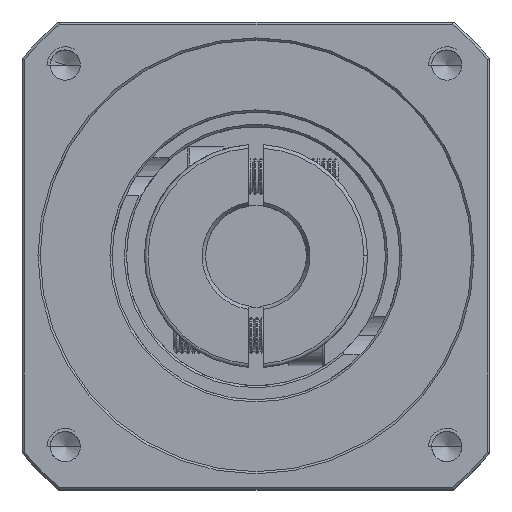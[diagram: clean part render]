
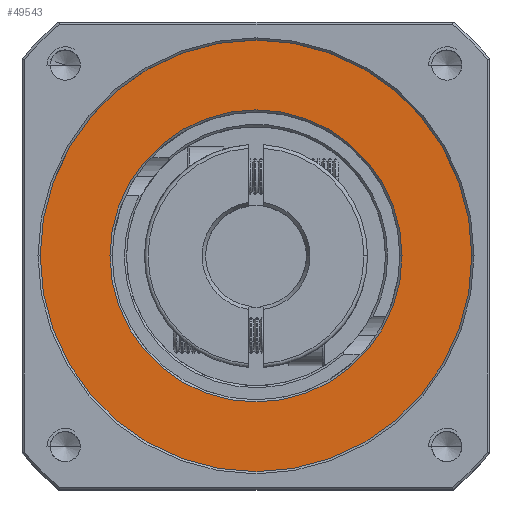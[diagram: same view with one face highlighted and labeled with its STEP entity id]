
A CAD part, top view. The second image highlights one B-rep face of the part: STEP entity #49543.
In plain terms, the highlighted planar face has unit normal (0, 0, 1).
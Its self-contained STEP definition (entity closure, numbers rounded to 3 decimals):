
#1238 = FACE_BOUND ( 'NONE', #85916, .T. ) ;
#3043 = AXIS2_PLACEMENT_3D ( 'NONE', #88804, #36376, #97473 ) ;
#3115 = DIRECTION ( 'NONE',  ( 0., 0., -1. ) ) ;
#9025 = CARTESIAN_POINT ( 'NONE',  ( -94.661, 33.999, 21.993 ) ) ;
#10719 = DIRECTION ( 'NONE',  ( 0., 0., 1. ) ) ;
#10800 = VERTEX_POINT ( 'NONE', #111671 ) ;
#12908 = VERTEX_POINT ( 'NONE', #112101 ) ;
#14169 = CIRCLE ( 'NONE', #73472, 20.3 ) ;
#15122 = EDGE_CURVE ( 'NONE', #12908, #10800, #14169, .T. ) ;
#17546 = CIRCLE ( 'NONE', #43964, 30. ) ;
#19249 = VERTEX_POINT ( 'NONE', #9025 ) ;
#19813 = EDGE_CURVE ( 'NONE', #19249, #24458, #17546, .T. ) ;
#24458 = VERTEX_POINT ( 'NONE', #70479 ) ;
#27011 = CARTESIAN_POINT ( 'NONE',  ( -64.661, 33.999, 21.993 ) ) ;
#27162 = FACE_OUTER_BOUND ( 'NONE', #91543, .T. ) ;
#31643 = DIRECTION ( 'NONE',  ( 0., 0., 1. ) ) ;
#35842 = DIRECTION ( 'NONE',  ( 1., 0., 0. ) ) ;
#36376 = DIRECTION ( 'NONE',  ( 0., 0., -1. ) ) ;
#41502 = ORIENTED_EDGE ( 'NONE', *, *, #15122, .T. ) ;
#43618 = ORIENTED_EDGE ( 'NONE', *, *, #69526, .T. ) ;
#43964 = AXIS2_PLACEMENT_3D ( 'NONE', #27011, #88289, #35842 ) ;
#47430 = ORIENTED_EDGE ( 'NONE', *, *, #98623, .T. ) ;
#47839 = AXIS2_PLACEMENT_3D ( 'NONE', #84072, #31643, #92791 ) ;
#49543 = ADVANCED_FACE ( 'NONE', ( #1238, #27162 ), #80302, .T. ) ;
#51521 = CIRCLE ( 'NONE', #47839, 30. ) ;
#51994 = CIRCLE ( 'NONE', #3043, 20.3 ) ;
#55565 = CARTESIAN_POINT ( 'NONE',  ( -64.661, 33.999, 21.993 ) ) ;
#60131 = ORIENTED_EDGE ( 'NONE', *, *, #19813, .T. ) ;
#63084 = CARTESIAN_POINT ( 'NONE',  ( -64.661, 33.999, 21.993 ) ) ;
#64347 = DIRECTION ( 'NONE',  ( 1., 0., 0. ) ) ;
#69526 = EDGE_CURVE ( 'NONE', #10800, #12908, #51994, .T. ) ;
#70479 = CARTESIAN_POINT ( 'NONE',  ( -34.661, 33.999, 21.993 ) ) ;
#71855 = DIRECTION ( 'NONE',  ( 1., 0., 0. ) ) ;
#73472 = AXIS2_PLACEMENT_3D ( 'NONE', #55565, #3115, #64347 ) ;
#80302 = PLANE ( 'NONE',  #88076 ) ;
#84072 = CARTESIAN_POINT ( 'NONE',  ( -64.661, 33.999, 21.993 ) ) ;
#85916 = EDGE_LOOP ( 'NONE', ( #43618, #41502 ) ) ;
#88076 = AXIS2_PLACEMENT_3D ( 'NONE', #63084, #10719, #71855 ) ;
#88289 = DIRECTION ( 'NONE',  ( 0., 0., 1. ) ) ;
#88804 = CARTESIAN_POINT ( 'NONE',  ( -64.661, 33.999, 21.993 ) ) ;
#91543 = EDGE_LOOP ( 'NONE', ( #47430, #60131 ) ) ;
#92791 = DIRECTION ( 'NONE',  ( 1., 0., 0. ) ) ;
#97473 = DIRECTION ( 'NONE',  ( 1., 0., 0. ) ) ;
#98623 = EDGE_CURVE ( 'NONE', #24458, #19249, #51521, .T. ) ;
#111671 = CARTESIAN_POINT ( 'NONE',  ( -44.361, 33.999, 21.993 ) ) ;
#112101 = CARTESIAN_POINT ( 'NONE',  ( -84.961, 33.999, 21.993 ) ) ;
